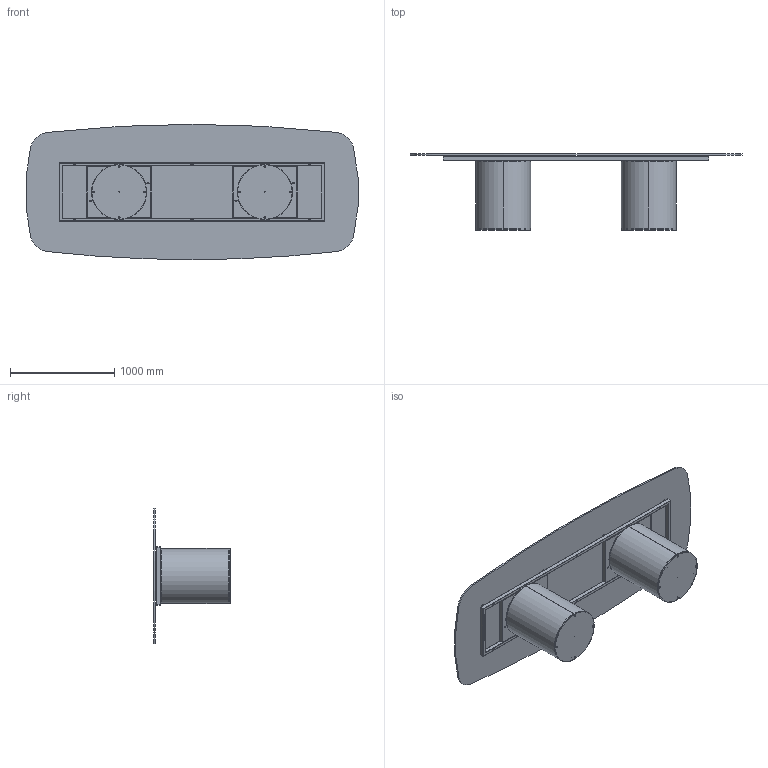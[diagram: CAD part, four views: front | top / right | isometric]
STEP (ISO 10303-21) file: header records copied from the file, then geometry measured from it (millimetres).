
FILE_DESCRIPTION (( 'STEP AP203' ), '1' );
FILE_NAME ('CI46G.STEP', '2024-08-08T07:13:40', ( '' ), ( '' ), 'SwSTEP 2.0', 'SolidWorks 2022', '' );
FILE_SCHEMA (( 'CONFIG_CONTROL_DESIGN' ));
Length unit declared in the file: millimetre
Products named in the file (11): C2B000000_01-00-struttura cilindro D.530mm; C2B000000-03-CILINDRO BASE D.530mm_Normale; TTAV03-06-TELAIO UNIVERSALE X TAVOLI 300-340cm; TTAV03_01-06-RING TUBO TELAIO UNIVERSALE X TAVOLI 300-340cm; TTAV03_02-06-VASSOIO IRRIGIDIMENTO TELAIO UNIVERSALE RETTANGOLARE; M8xXXmm_hex_M8X20mm; CI46G; COLLO TELAIO UNIVERSALE TTAV03 CON FERRAMENTA_MTG TOP CRISTALLO VERNICIATO-CERAMICA; C2B000000_02-01-ZAVORRA IN FERRO D.530mm; 434070-00-PIEDINO TPV GOMMA NERO D. 30x8max18_filo estetico; C4XCRXX-00-Piani Sagomati in Cristallo_3200 x 1300
Assembly tree (22 placements, depth 4):
  CI46G
    C2B000000-03-CILINDRO BASE D.530mm_Normale  x2
      C2B000000_01-00-struttura cilindro D.530mm
      C2B000000_02-01-ZAVORRA IN FERRO D.530mm
      M8xXXmm_hex_M8X20mm
    COLLO TELAIO UNIVERSALE TTAV03 CON FERRAMENTA_MTG TOP CRISTALLO VERNICIATO-CERAMICA
      TTAV03-06-TELAIO UNIVERSALE X TAVOLI 300-340cm
        TTAV03_01-06-RING TUBO TELAIO UNIVERSALE X TAVOLI 300-340cm
        TTAV03_02-06-VASSOIO IRRIGIDIMENTO TELAIO UNIVERSALE RETTANGOLARE  x2
      434070-00-PIEDINO TPV GOMMA NERO D. 30x8max18_filo estetico  x8
    C4XCRXX-00-Piani Sagomati in Cristallo_3200 x 1300
Bounding box: 3189.57 x 735 x 1300 mm (x, y, z)
Volume: 72684534.8 mm3; surface area: 16932609 mm2
Topology: 38 solids, 38 shells, 975 faces, 2207 edges, 1286 vertices
Faces by surface type: plane 442, cylinder 353, cone 96, torus 48, sphere 36
Entity records: 13604 total; most frequent: DIRECTION 2255, CARTESIAN_POINT 2047, ORIENTED_EDGE 1970, EDGE_CURVE 985, AXIS2_PLACEMENT_3D 839, VERTEX_POINT 599, LINE 577, VECTOR 577
